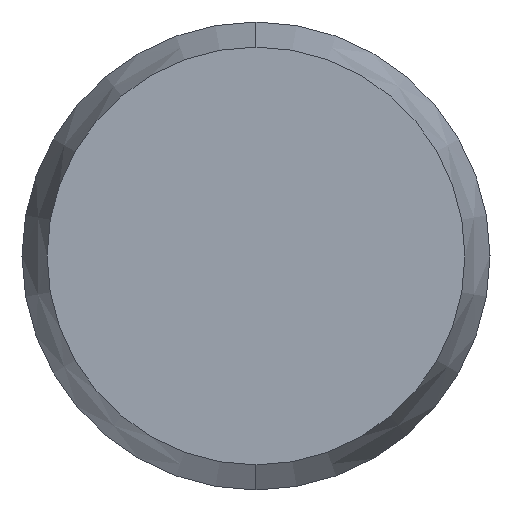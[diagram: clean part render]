
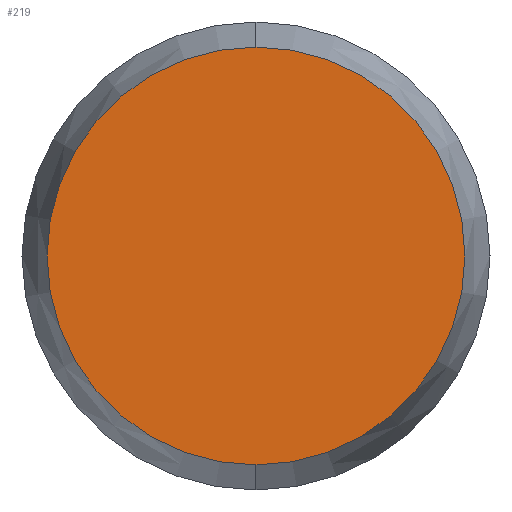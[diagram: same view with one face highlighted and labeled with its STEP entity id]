
A CAD part, left-side view. The second image highlights one B-rep face of the part: STEP entity #219.
In plain terms, the highlighted planar face has unit normal (-1, 0, 0).
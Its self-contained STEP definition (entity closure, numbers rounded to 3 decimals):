
#1 = VERTEX_POINT ( 'NONE', #31 ) ;
#2 = VERTEX_POINT ( 'NONE', #25 ) ;
#4 = EDGE_CURVE ( 'NONE', #1, #2, #33, .T. ) ;
#11 = CIRCLE ( 'NONE', #17, 0.446 ) ;
#15 = DIRECTION ( 'NONE',  ( 0., 0., -1. ) ) ;
#17 = AXIS2_PLACEMENT_3D ( 'NONE', #18, #20, #15 ) ;
#18 = CARTESIAN_POINT ( 'NONE',  ( -2.5, 0., 0. ) ) ;
#20 = DIRECTION ( 'NONE',  ( 1., 0., 0. ) ) ;
#23 = CARTESIAN_POINT ( 'NONE',  ( -2.5, 0., 0. ) ) ;
#25 = CARTESIAN_POINT ( 'NONE',  ( -2.5, 0., -0.446 ) ) ;
#30 = DIRECTION ( 'NONE',  ( 0., 0., -1. ) ) ;
#31 = CARTESIAN_POINT ( 'NONE',  ( -2.5, 0., 0.446 ) ) ;
#32 = AXIS2_PLACEMENT_3D ( 'NONE', #23, #35, #30 ) ;
#33 = CIRCLE ( 'NONE', #32, 0.446 ) ;
#35 = DIRECTION ( 'NONE',  ( 1., 0., 0. ) ) ;
#38 = DIRECTION ( 'NONE',  ( 1., 0., 0. ) ) ;
#39 = CARTESIAN_POINT ( 'NONE',  ( -2.5, 0., 0. ) ) ;
#40 = DIRECTION ( 'NONE',  ( 0., 0., -1. ) ) ;
#41 = AXIS2_PLACEMENT_3D ( 'NONE', #39, #38, #40 ) ;
#42 = PLANE ( 'NONE',  #41 ) ;
#43 = FACE_OUTER_BOUND ( 'NONE', #224, .T. ) ;
#219 = ADVANCED_FACE ( 'NONE', ( #43 ), #42, .F. ) ;
#220 = ORIENTED_EDGE ( 'NONE', *, *, #4, .F. ) ;
#221 = ORIENTED_EDGE ( 'NONE', *, *, #226, .F. ) ;
#224 = EDGE_LOOP ( 'NONE', ( #220, #221 ) ) ;
#226 = EDGE_CURVE ( 'NONE', #2, #1, #11, .T. ) ;
